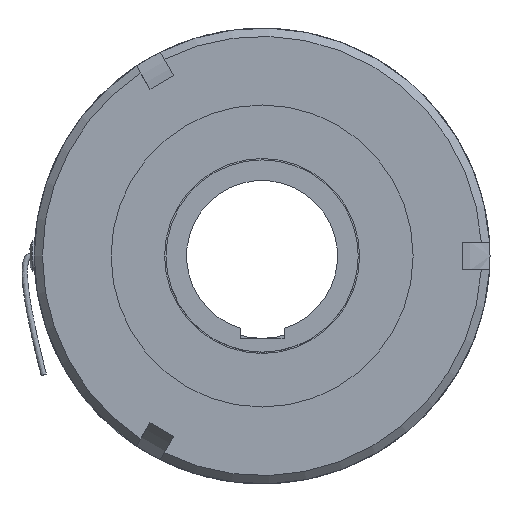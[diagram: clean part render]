
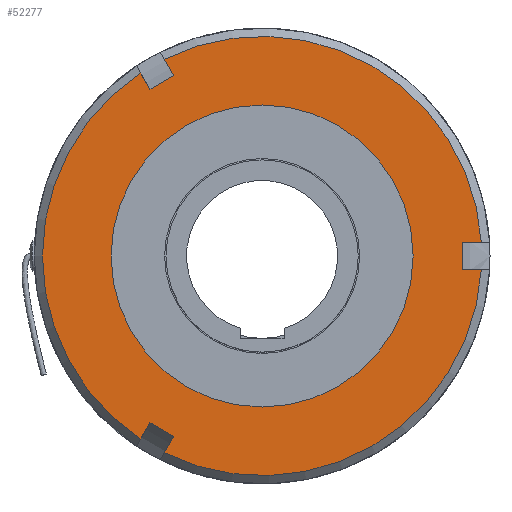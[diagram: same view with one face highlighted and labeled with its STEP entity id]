
A CAD part, left-side view. The second image highlights one B-rep face of the part: STEP entity #52277.
In plain terms, the highlighted planar face has unit normal (-1, 0, 0).
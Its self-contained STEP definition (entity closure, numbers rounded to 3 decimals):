
#264=FACE_BOUND('',#4850,.T.);
#585=PLANE('',#57075);
#2067=FACE_OUTER_BOUND('',#4849,.T.);
#4849=EDGE_LOOP('',(#37726,#37727,#37728,#37729,#37730,#37731,#37732,#37733,
#37734,#37735,#37736,#37737));
#4850=EDGE_LOOP('',(#37738,#37739));
#7894=LINE('',#86549,#11047);
#7895=LINE('',#86563,#11048);
#7897=LINE('',#86571,#11050);
#7899=LINE('',#86579,#11052);
#7900=LINE('',#86593,#11053);
#7902=LINE('',#86601,#11055);
#7908=LINE('',#86643,#11061);
#7909=LINE('',#86647,#11062);
#7910=LINE('',#86649,#11063);
#11047=VECTOR('',#69110,10.);
#11048=VECTOR('',#69115,10.);
#11050=VECTOR('',#69119,10.);
#11052=VECTOR('',#69125,10.);
#11053=VECTOR('',#69130,10.);
#11055=VECTOR('',#69134,10.);
#11061=VECTOR('',#69164,10.);
#11062=VECTOR('',#69169,10.);
#11063=VECTOR('',#69172,10.);
#14717=CIRCLE('',#56870,55.);
#14718=CIRCLE('',#56871,55.);
#14853=CIRCLE('',#57067,80.);
#14854=CIRCLE('',#57069,80.);
#14857=CIRCLE('',#57076,80.);
#19693=VERTEX_POINT('',#85813);
#19694=VERTEX_POINT('',#85814);
#19805=VERTEX_POINT('',#86546);
#19806=VERTEX_POINT('',#86548);
#19808=VERTEX_POINT('',#86561);
#19810=VERTEX_POINT('',#86567);
#19813=VERTEX_POINT('',#86576);
#19814=VERTEX_POINT('',#86578);
#19816=VERTEX_POINT('',#86591);
#19818=VERTEX_POINT('',#86597);
#19826=VERTEX_POINT('',#86629);
#19827=VERTEX_POINT('',#86635);
#19828=VERTEX_POINT('',#86641);
#19829=VERTEX_POINT('',#86645);
#26116=EDGE_CURVE('',#19693,#19694,#14717,.T.);
#26117=EDGE_CURVE('',#19694,#19693,#14718,.T.);
#26288=EDGE_CURVE('',#19806,#19805,#7894,.T.);
#26292=EDGE_CURVE('',#19805,#19808,#7895,.T.);
#26295=EDGE_CURVE('',#19808,#19810,#7897,.T.);
#26298=EDGE_CURVE('',#19814,#19813,#7899,.T.);
#26302=EDGE_CURVE('',#19813,#19816,#7900,.T.);
#26305=EDGE_CURVE('',#19816,#19818,#7902,.T.);
#26318=EDGE_CURVE('',#19806,#19826,#14853,.T.);
#26321=EDGE_CURVE('',#19827,#19818,#14854,.T.);
#26323=EDGE_CURVE('',#19827,#19828,#7908,.T.);
#26325=EDGE_CURVE('',#19828,#19829,#7909,.T.);
#26326=EDGE_CURVE('',#19829,#19826,#7910,.T.);
#26327=EDGE_CURVE('',#19814,#19810,#14857,.T.);
#37726=ORIENTED_EDGE('',*,*,#26295,.T.);
#37727=ORIENTED_EDGE('',*,*,#26327,.F.);
#37728=ORIENTED_EDGE('',*,*,#26298,.T.);
#37729=ORIENTED_EDGE('',*,*,#26302,.T.);
#37730=ORIENTED_EDGE('',*,*,#26305,.T.);
#37731=ORIENTED_EDGE('',*,*,#26321,.F.);
#37732=ORIENTED_EDGE('',*,*,#26323,.T.);
#37733=ORIENTED_EDGE('',*,*,#26325,.T.);
#37734=ORIENTED_EDGE('',*,*,#26326,.T.);
#37735=ORIENTED_EDGE('',*,*,#26318,.F.);
#37736=ORIENTED_EDGE('',*,*,#26288,.T.);
#37737=ORIENTED_EDGE('',*,*,#26292,.T.);
#37738=ORIENTED_EDGE('',*,*,#26116,.T.);
#37739=ORIENTED_EDGE('',*,*,#26117,.T.);
#52277=ADVANCED_FACE('',(#2067,#264),#585,.T.);
#56870=AXIS2_PLACEMENT_3D('',#85815,#68708,#68709);
#56871=AXIS2_PLACEMENT_3D('',#85816,#68710,#68711);
#57067=AXIS2_PLACEMENT_3D('',#86630,#69154,#69155);
#57069=AXIS2_PLACEMENT_3D('',#86639,#69158,#69159);
#57075=AXIS2_PLACEMENT_3D('',#86650,#69173,#69174);
#57076=AXIS2_PLACEMENT_3D('',#86651,#69175,#69176);
#68708=DIRECTION('center_axis',(1.,0.,0.));
#68709=DIRECTION('ref_axis',(0.,0.,-1.));
#68710=DIRECTION('center_axis',(1.,0.,0.));
#68711=DIRECTION('ref_axis',(0.,0.,-1.));
#69110=DIRECTION('',(0.,-0.5,-0.866));
#69115=DIRECTION('',(0.,0.866,-0.5));
#69119=DIRECTION('',(0.,0.5,0.866));
#69125=DIRECTION('',(0.,-0.5,0.866));
#69130=DIRECTION('',(0.,-0.866,-0.5));
#69134=DIRECTION('',(0.,0.5,-0.866));
#69154=DIRECTION('center_axis',(1.,0.,0.));
#69155=DIRECTION('ref_axis',(0.,-1.,0.));
#69158=DIRECTION('center_axis',(1.,0.,0.));
#69159=DIRECTION('ref_axis',(0.,-1.,0.));
#69164=DIRECTION('',(0.,1.,0.));
#69169=DIRECTION('',(0.,0.,1.));
#69172=DIRECTION('',(0.,-1.,0.));
#69173=DIRECTION('center_axis',(-1.,0.,0.));
#69174=DIRECTION('ref_axis',(0.,0.,1.));
#69175=DIRECTION('center_axis',(1.,0.,0.));
#69176=DIRECTION('ref_axis',(0.,-1.,0.));
#85813=CARTESIAN_POINT('',(-41.5,55.,0.));
#85814=CARTESIAN_POINT('',(-41.5,0.,55.));
#85815=CARTESIAN_POINT('Origin',(-41.5,0.,0.));
#85816=CARTESIAN_POINT('Origin',(-41.5,0.,0.));
#86546=CARTESIAN_POINT('',(-41.5,32.17,65.72));
#86548=CARTESIAN_POINT('',(-41.5,35.592,71.647));
#86549=CARTESIAN_POINT('',(-41.5,32.505,66.3));
#86561=CARTESIAN_POINT('',(-41.5,40.83,60.72));
#86563=CARTESIAN_POINT('',(-41.5,36.5,63.22));
#86567=CARTESIAN_POINT('',(-41.5,44.252,66.647));
#86571=CARTESIAN_POINT('',(-41.5,41.165,61.3));
#86576=CARTESIAN_POINT('',(-41.5,40.83,-60.72));
#86578=CARTESIAN_POINT('',(-41.5,44.252,-66.647));
#86579=CARTESIAN_POINT('',(-41.5,41.165,-61.3));
#86591=CARTESIAN_POINT('',(-41.5,32.17,-65.72));
#86593=CARTESIAN_POINT('',(-41.5,36.5,-63.22));
#86597=CARTESIAN_POINT('',(-41.5,35.592,-71.647));
#86601=CARTESIAN_POINT('',(-41.5,32.505,-66.3));
#86629=CARTESIAN_POINT('',(-41.5,-79.844,5.));
#86630=CARTESIAN_POINT('Origin',(-41.5,0.,0.));
#86635=CARTESIAN_POINT('',(-41.5,-79.844,-5.));
#86639=CARTESIAN_POINT('Origin',(-41.5,0.,0.));
#86641=CARTESIAN_POINT('',(-41.5,-73.,-5.));
#86643=CARTESIAN_POINT('',(-41.5,-11.419,-5.));
#86645=CARTESIAN_POINT('',(-41.5,-73.,5.));
#86647=CARTESIAN_POINT('',(-41.5,-73.,0.));
#86649=CARTESIAN_POINT('',(-41.5,-11.419,5.));
#86650=CARTESIAN_POINT('Origin',(-41.5,83.,0.));
#86651=CARTESIAN_POINT('Origin',(-41.5,0.,0.));
